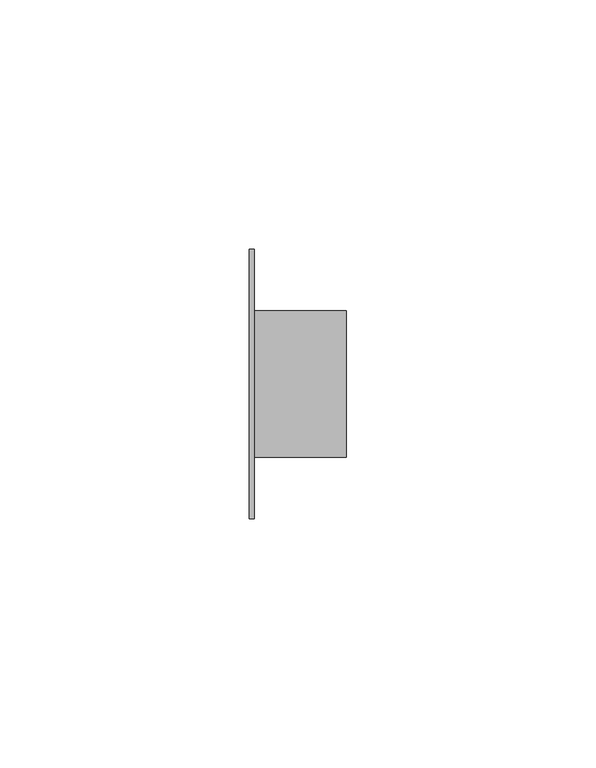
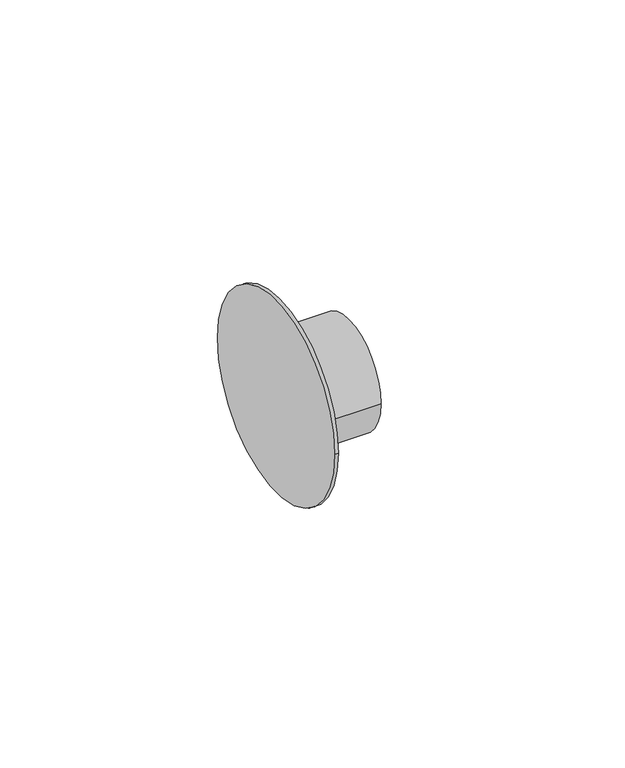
"""IFC4 building model written with IfcOpenShell, lengths in millimetres: pipe fitting geometry, Bucha de redução reta - Soldada - CU : Padrão."""

import ifcopenshell
import ifcopenshell.guid

model = None  # the IFC model being written
_history = None  # IfcOwnerHistory: only IFC2X3 demands one
_inside = {}  # id of a spatial element -> (the spatial element, [elements in it])
_under = {}  # id of a project, library or spatial element -> (it, [spatial elements below it])
_declared = {}  # id of a project -> (the project, [libraries it declares])
_typed = {}  # id of a type object -> (the type object, [elements of that type])
_made_of = {}  # id of a material, layer set ... -> (it, [elements and type objects made of it])


def new_model(schema):
    """Start an empty IFC model of exactly this schema.

    Asked for "IFC4X3", IfcOpenShell would pick the latest addendum, in which some entities
    have other attributes; the version numbers below select the first issue.
    IFC2X3 requires an IfcOwnerHistory on every rooted entity: one is made here for all.
    """
    global model, _history
    if schema == "IFC4X3":
        model = ifcopenshell.file(schema_version=(4, 3, 0, 0))
    else:
        model = ifcopenshell.file(schema=schema)
    _inside.clear()
    _under.clear()
    _declared.clear()
    _typed.clear()
    _made_of.clear()
    _history = None
    if model.schema == "IFC2X3":
        org = make("IfcOrganization", Name="unknown")
        user = make(
            "IfcPersonAndOrganization",
            ThePerson=make("IfcPerson", FamilyName="unknown"),
            TheOrganization=org,
        )
        app = make(
            "IfcApplication",
            ApplicationDeveloper=org,
            Version="unknown",
            ApplicationFullName="unknown",
            ApplicationIdentifier="unknown",
        )
        _history = make(
            "IfcOwnerHistory",
            OwningUser=user,
            OwningApplication=app,
            ChangeAction="ADDED",
            CreationDate=0,
        )
    return model


def make(cls, **values):
    """One entity of the class cls with the attributes given. An attribute that is None is left unset."""
    return model.create_entity(
        cls, **{name: value for name, value in values.items() if value is not None}
    )


def rooted(cls, **values):
    """An entity with a GlobalId (a new one), such as an element, a storey or a relation."""
    return make(cls, GlobalId=ifcopenshell.guid.new(), OwnerHistory=_history, **values)


def si_unit(unit_type, name, prefix=None):
    """IfcSIUnit, for example si_unit("LENGTHUNIT", "METRE", prefix="MILLI")."""
    return make("IfcSIUnit", UnitType=unit_type, Prefix=prefix, Name=name)


def assignment(units):
    """IfcUnitAssignment: the units of a project."""
    return None if units is None else make("IfcUnitAssignment", Units=units)


def point(xyz):
    """IfcCartesianPoint."""
    return None if xyz is None else make("IfcCartesianPoint", Coordinates=xyz)


def direction(xyz):
    """IfcDirection."""
    return None if xyz is None else make("IfcDirection", DirectionRatios=xyz)


def frame(location, z_axis=None, x_axis=None):
    """IfcAxis2Placement3D, a coordinate frame: its origin and axes. An axis left out is left unset."""
    return make(
        "IfcAxis2Placement3D",
        Location=point(location),
        Axis=direction(z_axis),
        RefDirection=direction(x_axis),
    )


def origin():
    """The frame at (0, 0, 0) with its axes left unset."""
    return frame((0.0, 0.0, 0.0))


def place(relative_to, where):
    """IfcLocalPlacement: puts the frame where relative to a parent placement (None: the world)."""
    return make(
        "IfcLocalPlacement", PlacementRelTo=relative_to, RelativePlacement=where
    )


def context(
    kind, dimensions, precision=None, world=None, true_north=None, identifier=None
):
    """IfcGeometricRepresentationContext, for example the 3D "Model" context."""
    return make(
        "IfcGeometricRepresentationContext",
        ContextIdentifier=identifier,
        ContextType=kind,
        CoordinateSpaceDimension=dimensions,
        Precision=precision,
        WorldCoordinateSystem=world,
        TrueNorth=true_north,
    )


def project(units=None, contexts=None):
    """IfcProject with its units and contexts."""
    return rooted(
        "IfcProject",
        Name="project",
        RepresentationContexts=contexts,
        UnitsInContext=assignment(units),
    )


def spatial(cls, under=None, at=None, **own):
    """A site, building, storey or space (cls), placed at a placement, below another one or the project."""
    s = rooted(cls, ObjectPlacement=at, **own)
    if under is not None:
        _under.setdefault(under.id(), (under, []))[1].append(s)
    return s


def circle_curve(where, radius):
    """IfcCircle in the frame where."""
    return make("IfcCircle", Position=where, Radius=radius)


def shape(context_of_items, identifier, shape_type, items):
    """IfcShapeRepresentation: the items that make up one representation, for example the "Body"."""
    return make(
        "IfcShapeRepresentation",
        ContextOfItems=context_of_items,
        RepresentationIdentifier=identifier,
        RepresentationType=shape_type,
        Items=items,
    )


def source(mapping_origin, context_of_items, identifier, shape_type, items):
    """IfcRepresentationMap: a shape defined once, which mapped items show again and again."""
    return make(
        "IfcRepresentationMap",
        MappingOrigin=mapping_origin,
        MappedRepresentation=shape(context_of_items, identifier, shape_type, items),
    )


def transform(
    local_origin,
    x_axis=None,
    y_axis=None,
    z_axis=None,
    scale=None,
    scale2=None,
    scale3=None,
    uniform=True,
):
    """IfcCartesianTransformationOperator3D, or its non-uniform kind. x_axis, y_axis, z_axis: its Axis1, 2, 3."""
    if uniform:
        return make(
            "IfcCartesianTransformationOperator3D",
            Axis1=direction(x_axis),
            Axis2=direction(y_axis),
            LocalOrigin=point(local_origin),
            Scale=scale,
            Axis3=direction(z_axis),
        )
    return make(
        "IfcCartesianTransformationOperator3DnonUniform",
        Axis1=direction(x_axis),
        Axis2=direction(y_axis),
        LocalOrigin=point(local_origin),
        Scale=scale,
        Axis3=direction(z_axis),
        Scale2=scale2,
        Scale3=scale3,
    )


def mapped(mapping_source, mapping_target):
    """IfcMappedItem: shows the shape of a source again, moved by a transform."""
    return make(
        "IfcMappedItem", MappingSource=mapping_source, MappingTarget=mapping_target
    )


def made_of(thing, what):
    """Note that an element or type object is made of a material, layer set ...; save() writes the relation."""
    if what is not None:
        _made_of.setdefault(what.id(), (what, []))[1].append(thing)
    return thing


def element(
    cls,
    number,
    at=None,
    inside=None,
    cuts=None,
    type_object=None,
    material=None,
    context=None,
    identifier="Body",
    shape_type=None,
    held_by="IfcProductDefinitionShape",
    body=None,
    shapes=None,
    **own,
):
    """One element of the class cls, such as IfcWall. Its Tag is "e" and its number.

    at: its placement. inside: the storey or other place that contains it. cuts: it is an
    opening in that element (IfcRelVoidsElement). A single representation is given by context,
    identifier, shape_type and body (its items); several are given by shapes. held_by: the class
    of the entity that holds the representations. save() writes the other relations.
    """
    e = rooted(cls, Tag="e%d" % number, ObjectPlacement=at, **own)
    if body is not None:
        shapes = [shape(context, identifier, shape_type, body)]
    if shapes is not None:
        e.Representation = make(held_by, Representations=shapes)
    if inside is not None:
        _inside.setdefault(inside.id(), (inside, []))[1].append(e)
    if cuts is not None:
        rooted(
            "IfcRelVoidsElement", RelatingBuildingElement=cuts, RelatedOpeningElement=e
        )
    if type_object is not None:
        _typed.setdefault(type_object.id(), (type_object, []))[1].append(e)
    return made_of(e, material)


def aggregate(whole, parts):
    """IfcRelAggregates: a whole, such as a stair, and the parts it consists of."""
    return rooted("IfcRelAggregates", RelatingObject=whole, RelatedObjects=parts)


def save(model, path):
    """Write the relations noted so far, then the file.

    IfcRelAggregates (storeys below a building ...), IfcRelContainedInSpatialStructure (elements
    in a storey), IfcRelDefinesByType, IfcRelAssociatesMaterial and IfcRelDeclares: one each for
    every whole, place, type object, material and project.
    """
    for whole, parts in _under.values():
        aggregate(whole, parts)
    for where, things in _inside.values():
        rooted(
            "IfcRelContainedInSpatialStructure",
            RelatedElements=things,
            RelatingStructure=where,
        )
    for kind, things in _typed.values():
        rooted("IfcRelDefinesByType", RelatedObjects=things, RelatingType=kind)
    for what, things in _made_of.values():
        rooted("IfcRelAssociatesMaterial", RelatedObjects=things, RelatingMaterial=what)
    for by, libraries in _declared.values():
        rooted("IfcRelDeclares", RelatingContext=by, RelatedDefinitions=libraries)
    model.write(path)


def plane_surface(at):
    """IfcPlane: the flat surface through the origin of the frame at, square to its z axis."""
    return make("IfcPlane", Position=at)


def cylinder_surface(at, radius):
    """IfcCylindricalSurface: all points at the distance radius from the z axis of the frame at."""
    return make("IfcCylindricalSurface", Position=at, Radius=radius)


def advanced_brep(points, edges, surfaces, faces):
    """IfcAdvancedBrep: a solid bounded by faces that lie on surfaces and meet in shared edges.

    An edge is (start, end): straight between two places in points (the first is 0);
    or (start, end, curve); or (start, end, curve, False) where it runs against its curve.
    A face is (place in surfaces, loops), or (place, loops, False) where it looks against
    its surface's normal. A loop lists edges by number (the first is 1), with a minus sign
    where the edge is run from its end to its start. The first loop is the outer one.
    """
    corners = [point(p) for p in points]
    vertices = [make("IfcVertexPoint", VertexGeometry=c) for c in corners]
    made = []
    for start, end, *more in edges:
        made.append(
            make(
                "IfcEdgeCurve",
                EdgeStart=vertices[start],
                EdgeEnd=vertices[end],
                EdgeGeometry=more[0] if more else make("IfcPolyline", Points=[corners[start], corners[end]]),
                SameSense=more[1] if len(more) > 1 else True,
            )
        )
    hull = []
    for where, loops, *sense in faces:
        bounds = []
        for j, loop in enumerate(loops):
            ring = [make("IfcOrientedEdge", EdgeElement=made[abs(k) - 1], Orientation=k > 0) for k in loop]
            bounds.append(
                make(
                    "IfcFaceOuterBound" if j == 0 else "IfcFaceBound",
                    Bound=make("IfcEdgeLoop", EdgeList=ring),
                    Orientation=True,
                )
            )
        hull.append(make("IfcAdvancedFace", Bounds=bounds, FaceSurface=surfaces[where], SameSense=sense[0] if sense else True))
    return make("IfcAdvancedBrep", Outer=make("IfcClosedShell", CfsFaces=hull))


def pipe_fitting_c89cbe9b(model_context):
    return source(origin(), model_context, "Body", "AdvancedBrep", [
        advanced_brep(
        [(0.0, -26.965, 0.0), (0.0, 26.965, 0.0), (1.0, -26.965, 0.0), (1.0, 26.965, 0.0), (1.0, -14.7, 0.0), (1.0, 14.7, 0.0), (19.4, -14.7, 0.0), (19.4, 14.7, 0.0)],
        [
            (0, 1, circle_curve(frame((0.0, 0.0, 0.0), z_axis=(-1.0, 0.0, 0.0), x_axis=(0.0, 1.0, 0.0)), 26.965)),
            (1, 0, circle_curve(frame((0.0, 0.0, 0.0), z_axis=(-1.0, 0.0, 0.0), x_axis=(0.0, 1.0, 0.0)), 26.965)),
            (2, 3, circle_curve(frame((1.0, 0.0, 0.0), z_axis=(1.0, 0.0, 0.0), x_axis=(0.0, 1.0, 0.0)), 26.965)),
            (3, 2, circle_curve(frame((1.0, 0.0, 0.0), z_axis=(1.0, 0.0, 0.0), x_axis=(0.0, 1.0, 0.0)), 26.965)),
            (4, 5, circle_curve(frame((1.0, 0.0, 0.0), z_axis=(-1.0, 0.0, 0.0), x_axis=(0.0, 1.0, 0.0)), 14.7)),
            (5, 4, circle_curve(frame((1.0, 0.0, 0.0), z_axis=(-1.0, 0.0, 0.0), x_axis=(0.0, 1.0, 0.0)), 14.7)),
            (0, 2),
            (3, 1),
            (6, 7, circle_curve(frame((19.4, 0.0, 0.0), z_axis=(1.0, 0.0, 0.0), x_axis=(0.0, 1.0, 0.0)), 14.7)),
            (7, 6, circle_curve(frame((19.4, 0.0, 0.0), z_axis=(1.0, 0.0, 0.0), x_axis=(0.0, 1.0, 0.0)), 14.7)),
            (7, 5),
            (4, 6),
        ],
        [
            plane_surface(frame((0.0, 0.0, 0.0), z_axis=(-1.0, 0.0, 0.0), x_axis=(0.0, 0.0, 1.0))),
            plane_surface(frame((1.0, 0.0, 0.0), z_axis=(1.0, 0.0, 0.0), x_axis=(0.0, 0.0, 1.0))),
            cylinder_surface(frame((0.0, 0.0, 0.0), z_axis=(-1.0, 0.0, 0.0), x_axis=(0.0, 1.0, 0.0)), 26.965),
            plane_surface(frame((19.4, 0.0, 0.0), z_axis=(1.0, 0.0, 0.0), x_axis=(0.0, 0.0, 1.0))),
            cylinder_surface(frame((1.0, 0.0, 0.0), z_axis=(-1.0, 0.0, 0.0), x_axis=(0.0, 1.0, 0.0)), 14.7),
        ],
        [
            (0, [[1, 2]]),
            (1, [[3, 4], [5, 6]]),
            (2, [[-1, 7, -4, 8]]),
            (2, [[-2, -8, -3, -7]]),
            (3, [[9, 10]]),
            (4, [[-10, 11, -5, 12]]),
            (4, [[-9, -12, -6, -11]]),
        ],
    ),
    ])


if __name__ == "__main__":
    model = new_model("IFC4")
    model_context = context("Model", 3, world=origin())
    ifc_project = project(units=[si_unit("LENGTHUNIT", "METRE", prefix="MILLI")], contexts=[model_context])
    site = spatial("IfcSite", under=ifc_project)
    building = spatial("IfcBuilding", under=site)
    placement = place(None, origin())
    pipe_fitting_shape = pipe_fitting_c89cbe9b(model_context)
    element("IfcPipeFitting", 1, ObjectType="Bucha de redução reta - Soldada - CU : Padrão", at=placement, inside=building, context=model_context, shape_type="MappedRepresentation", body=[
        mapped(pipe_fitting_shape, transform((0.0, 0.0, 0.0), x_axis=(1.0, 0.0, 0.0), y_axis=(0.0, 1.0, 0.0), z_axis=(0.0, 0.0, 1.0))),
    ])
    save(model, "model.ifc")
